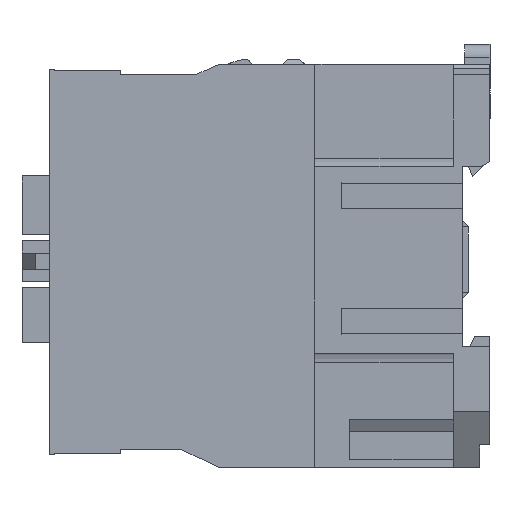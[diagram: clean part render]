
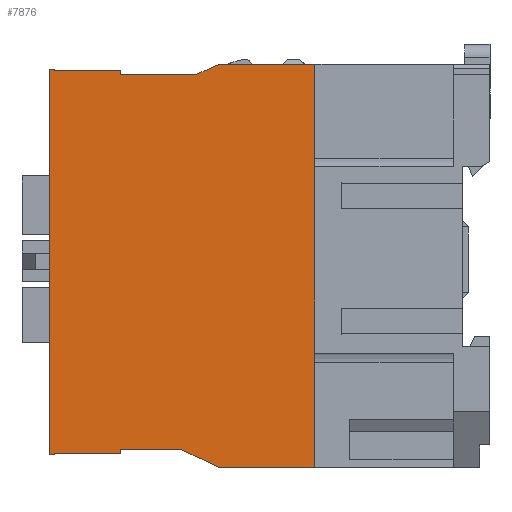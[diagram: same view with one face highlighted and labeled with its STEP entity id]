
A CAD part, left-side view. The second image highlights one B-rep face of the part: STEP entity #7876.
In plain terms, the highlighted planar face has unit normal (-1, 0, 0).
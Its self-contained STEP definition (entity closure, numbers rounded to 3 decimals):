
#3724 = VERTEX_POINT ( 'NONE', #13739 ) ;
#3733 = VERTEX_POINT ( 'NONE', #13788 ) ;
#3735 = EDGE_CURVE ( 'NONE', #3736, #3733, #13787, .T. ) ;
#3736 = VERTEX_POINT ( 'NONE', #13783 ) ;
#3784 = EDGE_CURVE ( 'NONE', #3724, #3733, #13877, .T. ) ;
#3809 = VERTEX_POINT ( 'NONE', #13937 ) ;
#3811 = EDGE_CURVE ( 'NONE', #3809, #3812, #13936, .T. ) ;
#3812 = VERTEX_POINT ( 'NONE', #13932 ) ;
#4028 = EDGE_CURVE ( 'NONE', #3812, #4051, #14276, .T. ) ;
#4051 = VERTEX_POINT ( 'NONE', #14359 ) ;
#4135 = VERTEX_POINT ( 'NONE', #14480 ) ;
#4140 = EDGE_CURVE ( 'NONE', #4051, #4135, #14475, .T. ) ;
#4715 = VERTEX_POINT ( 'NONE', #15484 ) ;
#4717 = EDGE_CURVE ( 'NONE', #3809, #4715, #15483, .T. ) ;
#4864 = VERTEX_POINT ( 'NONE', #15760 ) ;
#4866 = EDGE_CURVE ( 'NONE', #4864, #4867, #15759, .T. ) ;
#4867 = VERTEX_POINT ( 'NONE', #15755 ) ;
#5422 = EDGE_CURVE ( 'NONE', #5476, #5477, #16716, .T. ) ;
#5476 = VERTEX_POINT ( 'NONE', #16868 ) ;
#5477 = VERTEX_POINT ( 'NONE', #16867 ) ;
#5901 = VERTEX_POINT ( 'NONE', #17599 ) ;
#5985 = EDGE_CURVE ( 'NONE', #6011, #5986, #17718, .T. ) ;
#5986 = VERTEX_POINT ( 'NONE', #17714 ) ;
#6011 = VERTEX_POINT ( 'NONE', #17789 ) ;
#6016 = EDGE_CURVE ( 'NONE', #4135, #5901, #17784, .T. ) ;
#6083 = EDGE_CURVE ( 'NONE', #5986, #5476, #17880, .T. ) ;
#6121 = EDGE_CURVE ( 'NONE', #4867, #3724, #17942, .T. ) ;
#7115 = EDGE_CURVE ( 'NONE', #7193, #3736, #19577, .T. ) ;
#7193 = VERTEX_POINT ( 'NONE', #19703 ) ;
#7876 = ADVANCED_FACE ( 'NONE', ( #20747 ), #20742, .F. ) ;
#7877 = EDGE_LOOP ( 'NONE', ( #7935, #7936, #7939, #7941, #7942, #7943, #7944, #7924, #7926, #7927, #7928, #7929, #7930, #7931, #7933, #7934, #7995, #7996 ) ) ;
#7924 = ORIENTED_EDGE ( 'NONE', *, *, #7925, .F. ) ;
#7925 = EDGE_CURVE ( 'NONE', #5901, #7946, #20755, .T. ) ;
#7926 = ORIENTED_EDGE ( 'NONE', *, *, #6016, .F. ) ;
#7927 = ORIENTED_EDGE ( 'NONE', *, *, #4140, .F. ) ;
#7928 = ORIENTED_EDGE ( 'NONE', *, *, #4028, .F. ) ;
#7929 = ORIENTED_EDGE ( 'NONE', *, *, #3811, .F. ) ;
#7930 = ORIENTED_EDGE ( 'NONE', *, *, #4717, .T. ) ;
#7931 = ORIENTED_EDGE ( 'NONE', *, *, #7932, .T. ) ;
#7932 = EDGE_CURVE ( 'NONE', #4715, #7193, #20751, .T. ) ;
#7933 = ORIENTED_EDGE ( 'NONE', *, *, #7115, .T. ) ;
#7934 = ORIENTED_EDGE ( 'NONE', *, *, #3735, .T. ) ;
#7935 = ORIENTED_EDGE ( 'NONE', *, *, #4866, .F. ) ;
#7936 = ORIENTED_EDGE ( 'NONE', *, *, #7937, .T. ) ;
#7937 = EDGE_CURVE ( 'NONE', #4864, #7938, #20811, .T. ) ;
#7938 = VERTEX_POINT ( 'NONE', #20807 ) ;
#7939 = ORIENTED_EDGE ( 'NONE', *, *, #7940, .T. ) ;
#7940 = EDGE_CURVE ( 'NONE', #7938, #5477, #20806, .T. ) ;
#7941 = ORIENTED_EDGE ( 'NONE', *, *, #5422, .F. ) ;
#7942 = ORIENTED_EDGE ( 'NONE', *, *, #6083, .F. ) ;
#7943 = ORIENTED_EDGE ( 'NONE', *, *, #5985, .F. ) ;
#7944 = ORIENTED_EDGE ( 'NONE', *, *, #7945, .T. ) ;
#7945 = EDGE_CURVE ( 'NONE', #6011, #7946, #20802, .T. ) ;
#7946 = VERTEX_POINT ( 'NONE', #20798 ) ;
#7995 = ORIENTED_EDGE ( 'NONE', *, *, #3784, .F. ) ;
#7996 = ORIENTED_EDGE ( 'NONE', *, *, #6121, .F. ) ;
#13739 = CARTESIAN_POINT ( 'NONE',  ( 0.25, 58.5, -2. ) ) ;
#13783 = CARTESIAN_POINT ( 'NONE',  ( 0.25, 35., 0. ) ) ;
#13784 = DIRECTION ( 'NONE',  ( 0., 1., 0. ) ) ;
#13785 = VECTOR ( 'NONE', #13784, 1000. ) ;
#13786 = CARTESIAN_POINT ( 'NONE',  ( 0.25, 88., 0. ) ) ;
#13787 = LINE ( 'NONE', #13786, #13785 ) ;
#13788 = CARTESIAN_POINT ( 'NONE',  ( 0.25, 54., 0. ) ) ;
#13874 = DIRECTION ( 'NONE',  ( 0., -0.914, 0.406 ) ) ;
#13875 = VECTOR ( 'NONE', #13874, 1000. ) ;
#13876 = CARTESIAN_POINT ( 'NONE',  ( 0.25, 54., 0. ) ) ;
#13877 = LINE ( 'NONE', #13876, #13875 ) ;
#13932 = CARTESIAN_POINT ( 'NONE',  ( 0.25, 54., -80.5 ) ) ;
#13933 = DIRECTION ( 'NONE',  ( 0., 1., 0. ) ) ;
#13934 = VECTOR ( 'NONE', #13933, 1000. ) ;
#13935 = CARTESIAN_POINT ( 'NONE',  ( 0.25, 88., -80.5 ) ) ;
#13936 = LINE ( 'NONE', #13935, #13934 ) ;
#13937 = CARTESIAN_POINT ( 'NONE',  ( 0.25, 35., -80.5 ) ) ;
#14273 = DIRECTION ( 'NONE',  ( 0., 0.906, 0.423 ) ) ;
#14274 = VECTOR ( 'NONE', #14273, 1000. ) ;
#14275 = CARTESIAN_POINT ( 'NONE',  ( 0.25, 61.5, -77. ) ) ;
#14276 = LINE ( 'NONE', #14275, #14274 ) ;
#14359 = CARTESIAN_POINT ( 'NONE',  ( 0.25, 61.5, -77. ) ) ;
#14472 = DIRECTION ( 'NONE',  ( 0., 1., 0. ) ) ;
#14473 = VECTOR ( 'NONE', #14472, 1000. ) ;
#14474 = CARTESIAN_POINT ( 'NONE',  ( 0.25, 73.8, -77. ) ) ;
#14475 = LINE ( 'NONE', #14474, #14473 ) ;
#14480 = CARTESIAN_POINT ( 'NONE',  ( 0.25, 73.8, -77. ) ) ;
#15480 = DIRECTION ( 'NONE',  ( 0., 0., 1. ) ) ;
#15481 = VECTOR ( 'NONE', #15480, 1000. ) ;
#15482 = CARTESIAN_POINT ( 'NONE',  ( 0.25, 35., -80.5 ) ) ;
#15483 = LINE ( 'NONE', #15482, #15481 ) ;
#15484 = CARTESIAN_POINT ( 'NONE',  ( 0.25, 35., -57.7 ) ) ;
#15755 = CARTESIAN_POINT ( 'NONE',  ( 0.25, 73.8, -2. ) ) ;
#15756 = DIRECTION ( 'NONE',  ( 0., 0., -1. ) ) ;
#15757 = VECTOR ( 'NONE', #15756, 1000. ) ;
#15758 = CARTESIAN_POINT ( 'NONE',  ( 0.25, 73.8, -2. ) ) ;
#15759 = LINE ( 'NONE', #15758, #15757 ) ;
#15760 = CARTESIAN_POINT ( 'NONE',  ( 0.25, 73.8, -1.2 ) ) ;
#16716 = LINE ( 'NONE', #16721, #16779 ) ;
#16721 = CARTESIAN_POINT ( 'NONE',  ( 0.25, 73.8, -1. ) ) ;
#16778 = DIRECTION ( 'NONE',  ( 0., -1., 0. ) ) ;
#16779 = VECTOR ( 'NONE', #16778, 1000. ) ;
#16867 = CARTESIAN_POINT ( 'NONE',  ( 0.25, 87., -1. ) ) ;
#16868 = CARTESIAN_POINT ( 'NONE',  ( 0.25, 88., -1. ) ) ;
#17599 = CARTESIAN_POINT ( 'NONE',  ( 0.25, 73.8, -77.8 ) ) ;
#17714 = CARTESIAN_POINT ( 'NONE',  ( 0.25, 88., -78. ) ) ;
#17715 = DIRECTION ( 'NONE',  ( 0., 1., 0. ) ) ;
#17716 = VECTOR ( 'NONE', #17715, 1000. ) ;
#17717 = CARTESIAN_POINT ( 'NONE',  ( 0.25, 73.8, -78. ) ) ;
#17718 = LINE ( 'NONE', #17717, #17716 ) ;
#17781 = DIRECTION ( 'NONE',  ( 0., 0., -1. ) ) ;
#17782 = VECTOR ( 'NONE', #17781, 1000. ) ;
#17783 = CARTESIAN_POINT ( 'NONE',  ( 0.25, 73.8, -77. ) ) ;
#17784 = LINE ( 'NONE', #17783, #17782 ) ;
#17789 = CARTESIAN_POINT ( 'NONE',  ( 0.25, 87., -78. ) ) ;
#17877 = DIRECTION ( 'NONE',  ( 0., 0., 1. ) ) ;
#17878 = VECTOR ( 'NONE', #17877, 1000. ) ;
#17879 = CARTESIAN_POINT ( 'NONE',  ( 0.25, 88., -80.5 ) ) ;
#17880 = LINE ( 'NONE', #17879, #17878 ) ;
#17939 = DIRECTION ( 'NONE',  ( 0., -1., 0. ) ) ;
#17940 = VECTOR ( 'NONE', #17939, 1000. ) ;
#17941 = CARTESIAN_POINT ( 'NONE',  ( 0.25, 58.5, -2. ) ) ;
#17942 = LINE ( 'NONE', #17941, #17940 ) ;
#19574 = DIRECTION ( 'NONE',  ( 0., 0., 1. ) ) ;
#19575 = VECTOR ( 'NONE', #19574, 1000. ) ;
#19576 = CARTESIAN_POINT ( 'NONE',  ( 0.25, 35., -80.5 ) ) ;
#19577 = LINE ( 'NONE', #19576, #19575 ) ;
#19703 = CARTESIAN_POINT ( 'NONE',  ( 0.25, 35., -20.4 ) ) ;
#20738 = DIRECTION ( 'NONE',  ( 0., 1., 0. ) ) ;
#20739 = DIRECTION ( 'NONE',  ( 1., 0., 0. ) ) ;
#20740 = CARTESIAN_POINT ( 'NONE',  ( 0.25, 88., -80.5 ) ) ;
#20741 = AXIS2_PLACEMENT_3D ( 'NONE', #20740, #20739, #20738 ) ;
#20742 = PLANE ( 'NONE',  #20741 ) ;
#20747 = FACE_OUTER_BOUND ( 'NONE', #7877, .T. ) ;
#20748 = DIRECTION ( 'NONE',  ( 0., 0., 1. ) ) ;
#20749 = VECTOR ( 'NONE', #20748, 1000. ) ;
#20750 = CARTESIAN_POINT ( 'NONE',  ( 0.25, 35., -80.5 ) ) ;
#20751 = LINE ( 'NONE', #20750, #20749 ) ;
#20752 = DIRECTION ( 'NONE',  ( 0., 1., 0. ) ) ;
#20753 = VECTOR ( 'NONE', #20752, 1000. ) ;
#20754 = CARTESIAN_POINT ( 'NONE',  ( 0.25, 73.8, -77.8 ) ) ;
#20755 = LINE ( 'NONE', #20754, #20753 ) ;
#20798 = CARTESIAN_POINT ( 'NONE',  ( 0.25, 87., -77.8 ) ) ;
#20799 = DIRECTION ( 'NONE',  ( 0., 0., 1. ) ) ;
#20800 = VECTOR ( 'NONE', #20799, 1000. ) ;
#20801 = CARTESIAN_POINT ( 'NONE',  ( 0.25, 87., -77.8 ) ) ;
#20802 = LINE ( 'NONE', #20801, #20800 ) ;
#20803 = DIRECTION ( 'NONE',  ( 0., 0., 1. ) ) ;
#20804 = VECTOR ( 'NONE', #20803, 1000. ) ;
#20805 = CARTESIAN_POINT ( 'NONE',  ( 0.25, 87., -1.2 ) ) ;
#20806 = LINE ( 'NONE', #20805, #20804 ) ;
#20807 = CARTESIAN_POINT ( 'NONE',  ( 0.25, 87., -1.2 ) ) ;
#20808 = DIRECTION ( 'NONE',  ( 0., 1., 0. ) ) ;
#20809 = VECTOR ( 'NONE', #20808, 1000. ) ;
#20810 = CARTESIAN_POINT ( 'NONE',  ( 0.25, 73.8, -1.2 ) ) ;
#20811 = LINE ( 'NONE', #20810, #20809 ) ;
